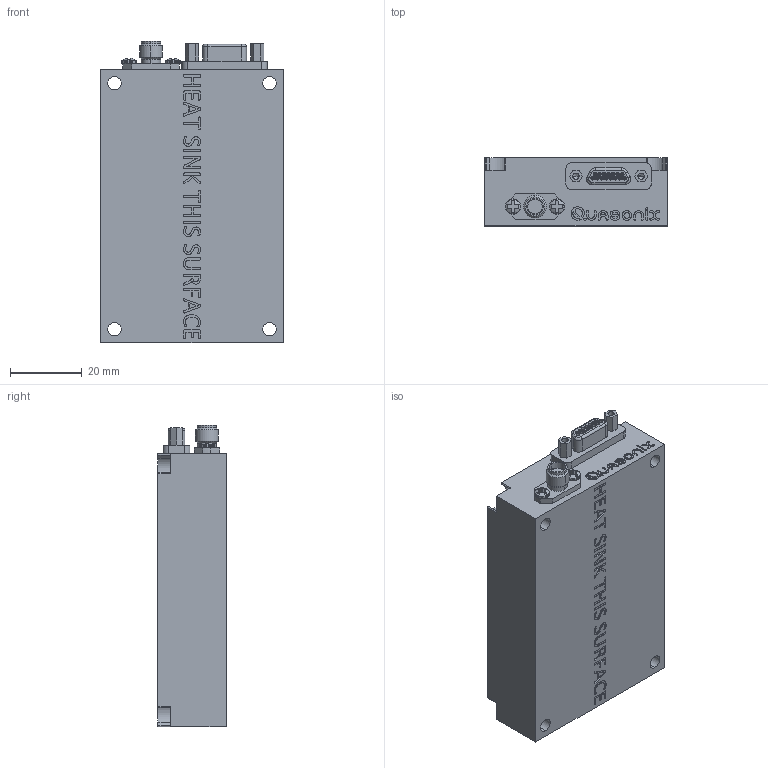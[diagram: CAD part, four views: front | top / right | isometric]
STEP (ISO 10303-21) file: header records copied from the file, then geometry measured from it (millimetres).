
FILE_DESCRIPTION (( 'STEP AP214' ), '1' );
FILE_NAME ('QS-TX-04ASXXX.STEP', '2024-12-24T20:18:40', ( '' ), ( '' ), 'SwSTEP 2.0', 'SolidWorks 2023', '' );
FILE_SCHEMA (( 'AUTOMOTIVE_DESIGN' ));
Length unit declared in the file: inch
Products named in the file (1): QS-TX-04ASXXX
Bounding box: 50.8 x 19.05 x 84.14 mm (x, y, z)
Volume: 73651.5 mm3; surface area: 15991.1 mm2
Topology: 7 solids, 7 shells, 814 faces, 2082 edges, 1370 vertices
Faces by surface type: plane 323, bspline 258, cylinder 198, torus 17, cone 14, sphere 4
Entity records: 34102 total; most frequent: CARTESIAN_POINT 15665, ORIENTED_EDGE 4148, DIRECTION 3099, EDGE_CURVE 2074, VERTEX_POINT 1370, VECTOR 1083, LINE 1083, AXIS2_PLACEMENT_3D 1008
